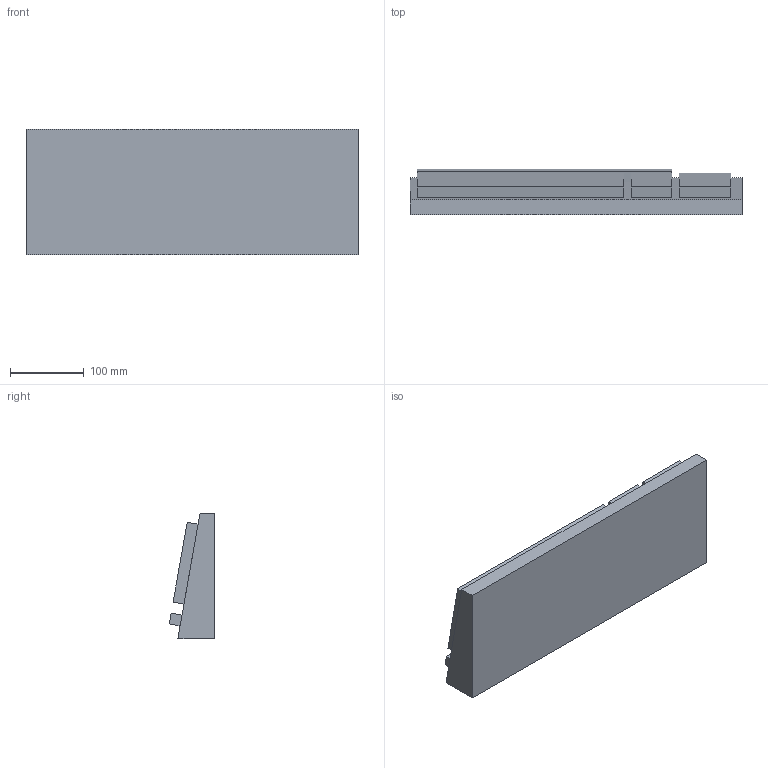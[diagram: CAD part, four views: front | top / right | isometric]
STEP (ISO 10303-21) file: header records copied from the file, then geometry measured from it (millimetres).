
FILE_DESCRIPTION((''),'2;1');
FILE_NAME('TASTATUR_CAD-DE','2004-10-27T',('Ano Nym'),('Eugen Laegler GmbH'),'PRO/ENGINEER BY PARAMETRIC TECHNOLOGY CORPORATION, 2004080','PRO/ENGINEER BY PARAMETRIC TECHNOLOGY CORPORATION, 2004080','');
FILE_SCHEMA(('CONFIG_CONTROL_DESIGN'));
Length unit declared in the file: millimetre
Products named in the file (1): TASTATUR_CAD-DE
Bounding box: 450 x 61.71 x 170 mm (x, y, z)
Volume: 3423375 mm3; surface area: 230432 mm2
Topology: 1 solids, 1 shells, 26 faces, 63 edges, 46 vertices
Faces by surface type: plane 26
Entity records: 786 total; most frequent: CARTESIAN_POINT 130, ORIENTED_EDGE 120, DIRECTION 117, VECTOR 63, LINE 63, EDGE_CURVE 60, VERTEX_POINT 40, EDGE_LOOP 30
